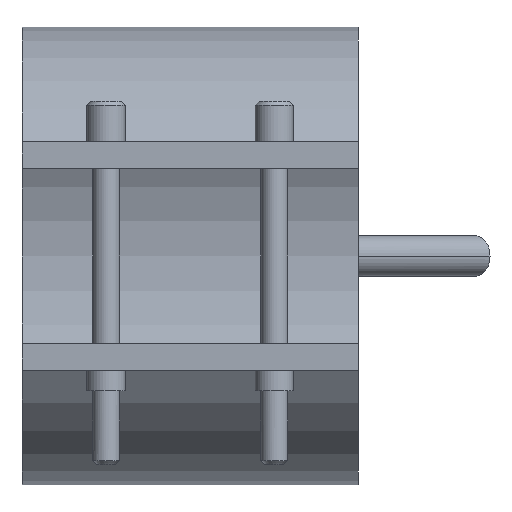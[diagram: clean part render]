
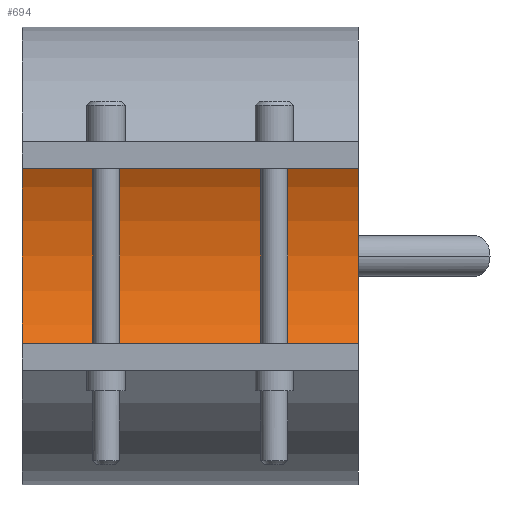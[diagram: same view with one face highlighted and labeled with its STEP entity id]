
A CAD part, front view. The second image highlights one B-rep face of the part: STEP entity #694.
In plain terms, the highlighted cylindrical face has radius 30 mm (diameter 60 mm), a partial arc.
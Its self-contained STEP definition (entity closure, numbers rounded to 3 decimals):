
#364=CARTESIAN_POINT('Vertex',(25.,0.,30.)) ;
#369=CARTESIAN_POINT('Axis2P3D Location',(25.,0.,0.)) ;
#373=CARTESIAN_POINT('Vertex',(25.,0.,-30.)) ;
#480=CARTESIAN_POINT('Vertex',(-25.,0.,-30.)) ;
#483=CARTESIAN_POINT('Axis2P3D Location',(-25.,0.,0.)) ;
#487=CARTESIAN_POINT('Vertex',(-25.,0.,30.)) ;
#666=CARTESIAN_POINT('Line Origine',(25.,0.,30.)) ;
#678=CARTESIAN_POINT('Axis2P3D Location',(25.,0.,0.)) ;
#683=CARTESIAN_POINT('Line Origine',(25.,0.,-30.)) ;
#370=DIRECTION('Axis2P3D Direction',(1.,0.,0.)) ;
#484=DIRECTION('Axis2P3D Direction',(1.,0.,0.)) ;
#667=DIRECTION('Vector Direction',(1.,0.,0.)) ;
#679=DIRECTION('Axis2P3D Direction',(1.,0.,-0.)) ;
#680=DIRECTION('Axis2P3D XDirection',(0.,0.,-1.)) ;
#684=DIRECTION('Vector Direction',(1.,0.,0.)) ;
#371=AXIS2_PLACEMENT_3D('Circle Axis2P3D',#369,#370,$) ;
#485=AXIS2_PLACEMENT_3D('Circle Axis2P3D',#483,#484,$) ;
#681=AXIS2_PLACEMENT_3D('Cylinder Axis2P3D',#678,#679,#680) ;
#689=ORIENTED_EDGE('',*,*,#375,.T.) ;
#690=ORIENTED_EDGE('',*,*,#670,.T.) ;
#691=ORIENTED_EDGE('',*,*,#489,.F.) ;
#692=ORIENTED_EDGE('',*,*,#687,.T.) ;
#668=VECTOR('Line Direction',#667,1.) ;
#685=VECTOR('Line Direction',#684,1.) ;
#694=ADVANCED_FACE('29060050',(#693),#682,.F.) ;
#372=CIRCLE('generated circle',#371,30.) ;
#486=CIRCLE('generated circle',#485,30.) ;
#682=CYLINDRICAL_SURFACE('generated cylinder',#681,30.) ;
#375=EDGE_CURVE('',#374,#365,#372,.T.) ;
#489=EDGE_CURVE('',#481,#488,#486,.T.) ;
#670=EDGE_CURVE('',#365,#488,#669,.F.) ;
#687=EDGE_CURVE('',#481,#374,#686,.T.) ;
#688=EDGE_LOOP('',(#689,#690,#691,#692)) ;
#693=FACE_OUTER_BOUND('',#688,.T.) ;
#669=LINE('Line',#666,#668) ;
#686=LINE('Line',#683,#685) ;
#365=VERTEX_POINT('',#364) ;
#374=VERTEX_POINT('',#373) ;
#481=VERTEX_POINT('',#480) ;
#488=VERTEX_POINT('',#487) ;
